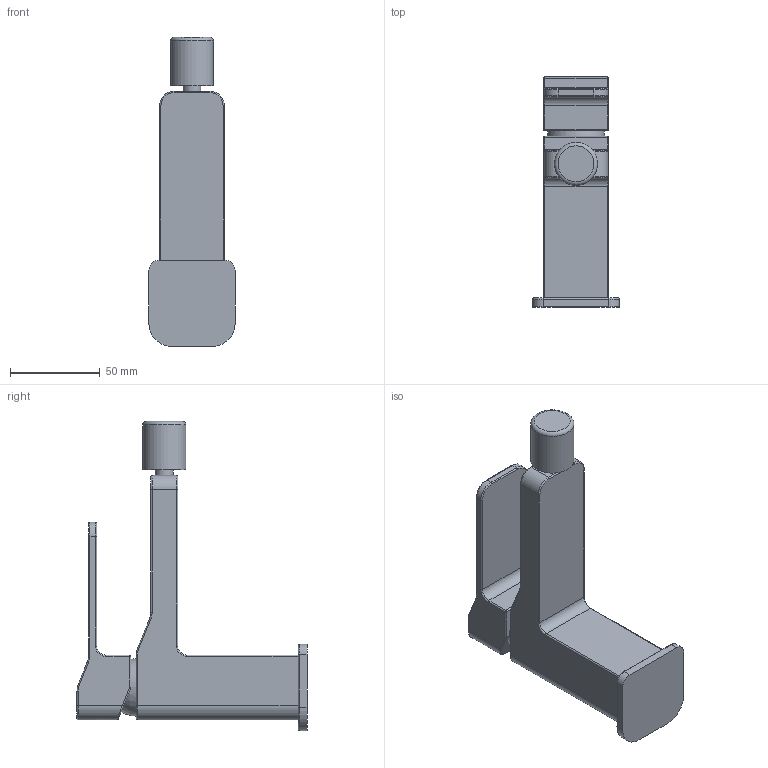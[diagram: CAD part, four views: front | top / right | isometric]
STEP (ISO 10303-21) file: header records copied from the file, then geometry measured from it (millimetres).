
FILE_DESCRIPTION(/* description */ (''),/* implementation_level */ '2;1');
FILE_NAME(/* name */ 'c:\worker\convert-fusion-oct-2018\tmp\job-1\6\output\files\a96434e5-ab5f-4935-9554-51cb861154c8\1d273d53-0452-472c-99ac-04930f561d3e.stp',/* time_stamp */ '2018-10-15T11:22:33+00:00',/* author */ (''),/* organization */ (''),/* preprocessor_version */ 'ST-DEVELOPER v17.2',/* originating_system */ 'Autodesk Translation Framework v7.6.0.251',/* authorisation */ '');
FILE_SCHEMA (('AUTOMOTIVE_DESIGN { 1 0 10303 214 3 1 1 }'));
Length unit declared in the file: millimetre
Products named in the file (3): !SL7720; mocowanie perlatora; perlator
Assembly tree (2 placements, depth 2):
  !SL7720
    mocowanie perlatora
    perlator
Bounding box: 48 x 128 x 172 mm (x, y, z)
Volume: 249131.4 mm3; surface area: 44640.9 mm2
Topology: 5 solids, 5 shells, 121 faces, 265 edges, 154 vertices
Faces by surface type: cylinder 56, plane 31, torus 29, sphere 3, bspline 2
Full cylindrical faces by diameter (mm): 10 x1, 24 x1
Entity records: 3431 total; most frequent: DIRECTION 657, CARTESIAN_POINT 602, ORIENTED_EDGE 528, AXIS2_PLACEMENT_3D 269, EDGE_CURVE 264, VERTEX_POINT 154, CIRCLE 139, EDGE_LOOP 122
